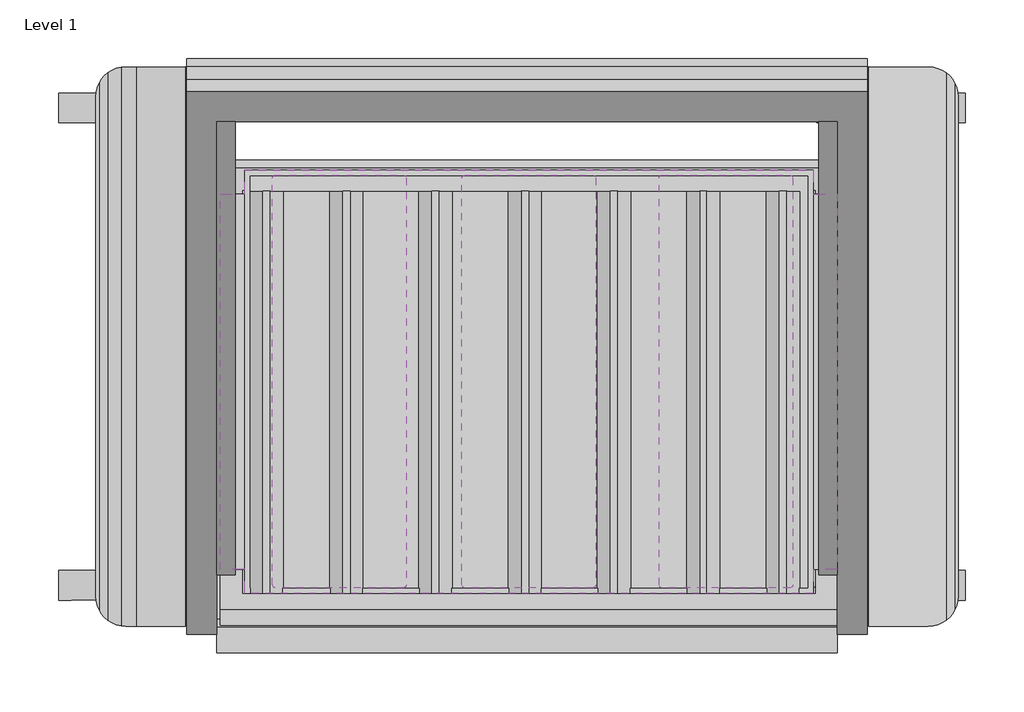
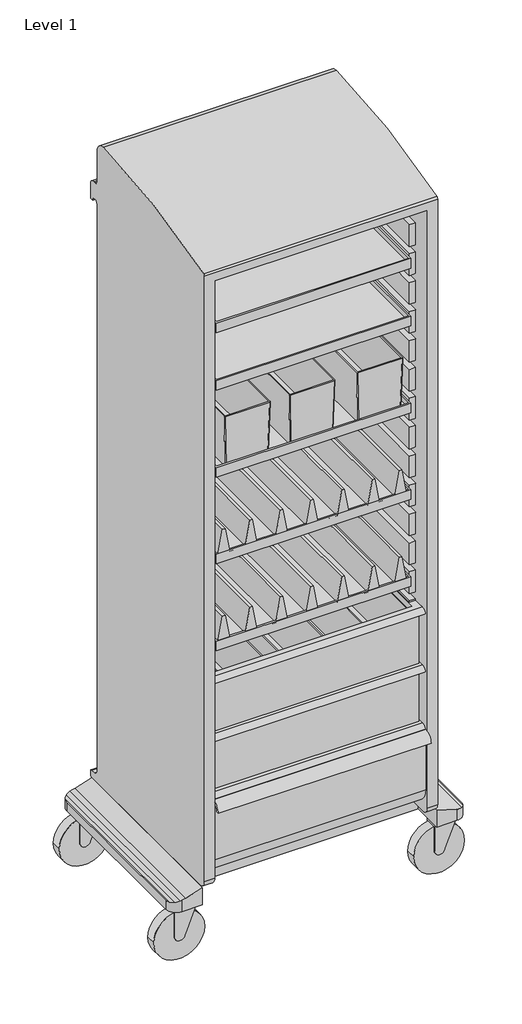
# One storey: 23 furniture elements.
"""IFC4 building model written with IfcOpenShell, lengths in millimetres."""

from ifc_helpers import new_model, si_unit, origin, place, context, project, spatial, transform, mapped, element, save
from components import furniture_57446897, furniture_afa4cdc3, furniture_f0e7dcaa, furniture_e1d5eda1, furniture_a066baf2, furniture_6ecb9068, furniture_46c0600c, furniture_ba50979e, furniture_a89a9833, furniture_da176630, b_6_e607353f, b_6_86f14c1b, b_6_80401fae

model = new_model("IFC4")

# Units and contexts
model_context = context("Model", 3, world=origin())
ifc_project = project(units=[si_unit("LENGTHUNIT", "METRE", prefix="MILLI")], contexts=[model_context])

# Site, building, storey
site = spatial("IfcSite", under=ifc_project)
building = spatial("IfcBuilding", under=site)
storey = spatial("IfcBuildingStorey", under=building, Name="Level 1", Elevation=0.0)

# Furniture
placement = place(None, origin())
furniture_shape = furniture_57446897(model_context)
element("IfcFurniture", 1, ObjectType="HermanMiller_CoStruc_CO561_LockerWithTambourDoor : 72\"H x 20\"D x 22\"W", at=placement, inside=storey, context=model_context, shape_type="MappedRepresentation", body=[
    mapped(furniture_shape, transform((369.7807996, -246.0625, 0.0), x_axis=(1.0, 0.0, 0.0), y_axis=(0.0, 1.0, 0.0), z_axis=(0.0, 0.0, 1.0))),
])
furniture_2_shape = furniture_afa4cdc3(model_context)
element("IfcFurniture", 2, ObjectType="HermanMiller_CoStruc_CO203_CTrayShelf : 14\"D x 20\"W", at=placement, inside=storey, context=model_context, shape_type="MappedRepresentation", body=[
    mapped(furniture_2_shape, transform((371.3682996, -276.225, 0.0), x_axis=(1.0, 0.0, 0.0), y_axis=(0.0, 1.0, 0.0), z_axis=(0.0, 0.0, 1.0))),
])
furniture_3_shape = furniture_f0e7dcaa(model_context)
element("IfcFurniture", 3, ObjectType="HermanMiller_CoStruc_CO203_CTrayShelf : 14\"D x 20\"W", at=placement, inside=storey, context=model_context, shape_type="MappedRepresentation", body=[
    mapped(furniture_3_shape, transform((371.3682996, -276.225, 0.0), x_axis=(1.0, 0.0, 0.0), y_axis=(0.0, 1.0, 0.0), z_axis=(0.0, 0.0, 1.0))),
])
furniture_4_shape = furniture_e1d5eda1(model_context)
element("IfcFurniture", 4, ObjectType="HermanMiller_CoStruc_CO203_CTrayShelf : 14\"D x 20\"W", at=placement, inside=storey, context=model_context, shape_type="MappedRepresentation", body=[
    mapped(furniture_4_shape, transform((371.3682996, -276.225, 0.0), x_axis=(1.0, 0.0, 0.0), y_axis=(0.0, 1.0, 0.0), z_axis=(0.0, 0.0, 1.0))),
])
furniture_5_shape = furniture_a066baf2(model_context)
element("IfcFurniture", 5, ObjectType="HermanMiller_CoStruc_CO203_CTrayShelf : 14\"D x 20\"W", at=placement, inside=storey, context=model_context, shape_type="MappedRepresentation", body=[
    mapped(furniture_5_shape, transform((371.3682996, -276.225, 0.0), x_axis=(1.0, 0.0, 0.0), y_axis=(0.0, 1.0, 0.0), z_axis=(0.0, 0.0, 1.0))),
])
furniture_6_shape = furniture_6ecb9068(model_context)
element("IfcFurniture", 6, ObjectType="HermanMiller_CoStruc_CO203_CTrayShelf : 14\"D x 20\"W", at=placement, inside=storey, context=model_context, shape_type="MappedRepresentation", body=[
    mapped(furniture_6_shape, transform((371.3682996, -276.225, 0.0), x_axis=(1.0, 0.0, 0.0), y_axis=(0.0, 1.0, 0.0), z_axis=(0.0, 0.0, 1.0))),
])
furniture_7_shape = furniture_46c0600c(model_context)
element("IfcFurniture", 7, ObjectType="HermanMiller_CoStruc_CO231_Subcontainer : 5 1/4\"H x 13 7/8\"D x 4 1/2\"W", at=placement, inside=storey, context=model_context, shape_type="MappedRepresentation", body=[
    mapped(furniture_7_shape, transform((209.55, -276.09038, -195.40728), x_axis=(1.0, 0.0, 0.0), y_axis=(0.0, 1.0, 0.0), z_axis=(0.0, 0.0, 1.0))),
])
element("IfcFurniture", 8, ObjectType="HermanMiller_CoStruc_CO231_Subcontainer : 5 1/4\"H x 13 7/8\"D x 4 1/2\"W", at=placement, inside=storey, context=model_context, shape_type="MappedRepresentation", body=[
    mapped(furniture_7_shape, transform((371.3682996, -276.09038, -195.40728), x_axis=(1.0, 0.0, 0.0), y_axis=(0.0, 1.0, 0.0), z_axis=(0.0, 0.0, 1.0))),
])
element("IfcFurniture", 9, ObjectType="HermanMiller_CoStruc_CO231_Subcontainer : 5 1/4\"H x 13 7/8\"D x 4 1/2\"W", at=placement, inside=storey, context=model_context, shape_type="MappedRepresentation", body=[
    mapped(furniture_7_shape, transform((539.75, -276.09038, -195.40728), x_axis=(1.0, 0.0, 0.0), y_axis=(0.0, 1.0, 0.0), z_axis=(0.0, 0.0, 1.0))),
])
furniture_8_shape = furniture_ba50979e(model_context)
element("IfcFurniture", 10, ObjectType="HermanMiller_CoStruc_CO231_Subcontainer : 5 1/4\"H x 13 7/8\"D x 4 1/2\"W", at=placement, inside=storey, context=model_context, shape_type="MappedRepresentation", body=[
    mapped(furniture_8_shape, transform((197.8608996, -276.09038, -5.715), x_axis=(1.0, 0.0, 0.0), y_axis=(0.0, 1.0, 0.0), z_axis=(0.0, 0.0, 1.0))),
])
element("IfcFurniture", 11, ObjectType="HermanMiller_CoStruc_CO231_Subcontainer : 5 1/4\"H x 13 7/8\"D x 4 1/2\"W", at=placement, inside=storey, context=model_context, shape_type="MappedRepresentation", body=[
    mapped(furniture_8_shape, transform((355.6, -276.09038, -5.715), x_axis=(1.0, 0.0, 0.0), y_axis=(0.0, 1.0, 0.0), z_axis=(0.0, 0.0, 1.0))),
])
element("IfcFurniture", 12, ObjectType="HermanMiller_CoStruc_CO231_Subcontainer : 5 1/4\"H x 13 7/8\"D x 4 1/2\"W", at=placement, inside=storey, context=model_context, shape_type="MappedRepresentation", body=[
    mapped(furniture_8_shape, transform((546.1, -276.09038, -5.715), x_axis=(1.0, 0.0, 0.0), y_axis=(0.0, 1.0, 0.0), z_axis=(0.0, 0.0, 1.0))),
])
element("IfcFurniture", 13, ObjectType="HermanMiller_CoStruc_CO231_Subcontainer : 5 1/4\"H x 13 7/8\"D x 4 1/2\"W", at=placement, inside=storey, context=model_context, shape_type="MappedRepresentation", body=[
    mapped(furniture_8_shape, transform((197.8608996, -276.09038, 146.685), x_axis=(1.0, 0.0, 0.0), y_axis=(0.0, 1.0, 0.0), z_axis=(0.0, 0.0, 1.0))),
])
element("IfcFurniture", 14, ObjectType="HermanMiller_CoStruc_CO231_Subcontainer : 5 1/4\"H x 13 7/8\"D x 4 1/2\"W", at=placement, inside=storey, context=model_context, shape_type="MappedRepresentation", body=[
    mapped(furniture_8_shape, transform((349.25, -276.09038, 146.685), x_axis=(1.0, 0.0, 0.0), y_axis=(0.0, 1.0, 0.0), z_axis=(0.0, 0.0, 1.0))),
])
element("IfcFurniture", 15, ObjectType="HermanMiller_CoStruc_CO231_Subcontainer : 5 1/4\"H x 13 7/8\"D x 4 1/2\"W", at=placement, inside=storey, context=model_context, shape_type="MappedRepresentation", body=[
    mapped(furniture_8_shape, transform((558.8, -276.09038, 146.685), x_axis=(1.0, 0.0, 0.0), y_axis=(0.0, 1.0, 0.0), z_axis=(0.0, 0.0, 1.0))),
])
element("IfcFurniture", 16, ObjectType="HermanMiller_CoStruc_CO231_Subcontainer : 5 1/4\"H x 13 7/8\"D x 4 1/2\"W", at=placement, inside=storey, context=model_context, shape_type="MappedRepresentation", body=[
    mapped(furniture_8_shape, transform((349.25, -276.09038, -158.115), x_axis=(1.0, 0.0, 0.0), y_axis=(0.0, 1.0, 0.0), z_axis=(0.0, 0.0, 1.0))),
])
element("IfcFurniture", 17, ObjectType="HermanMiller_CoStruc_CO231_Subcontainer : 5 1/4\"H x 13 7/8\"D x 4 1/2\"W", at=placement, inside=storey, context=model_context, shape_type="MappedRepresentation", body=[
    mapped(furniture_8_shape, transform((488.95, -276.09038, -158.115), x_axis=(1.0, 0.0, 0.0), y_axis=(0.0, 1.0, 0.0), z_axis=(0.0, 0.0, 1.0))),
])
element("IfcFurniture", 18, ObjectType="HermanMiller_CoStruc_CO231_Subcontainer : 5 1/4\"H x 13 7/8\"D x 4 1/2\"W", at=placement, inside=storey, context=model_context, shape_type="MappedRepresentation", body=[
    mapped(furniture_8_shape, transform((203.2, -276.09038, -158.115), x_axis=(1.0, 0.0, 0.0), y_axis=(0.0, 1.0, 0.0), z_axis=(0.0, 0.0, 1.0))),
])
furniture_9_shape = furniture_a89a9833(model_context)
element("IfcFurniture", 19, ObjectType="HermanMiller_CoStruc_CO242_Subdivider Vane : 2 5/8\"Hx13 3/4\"D x 18 1/2\"W", at=placement, inside=storey, context=model_context, shape_type="MappedRepresentation", body=[
    mapped(furniture_9_shape, transform((367.8973512, -285.369, 0.0), x_axis=(1.0, 0.0, 0.0), y_axis=(0.0, 1.0, 0.0), z_axis=(0.0, 0.0, 1.0))),
])
furniture_10_shape = furniture_da176630(model_context)
element("IfcFurniture", 20, ObjectType="HermanMiller_CoStruc_CO242_Subdivider Vane : 2 5/8\"Hx13 3/4\"D x 18 1/2\"W", at=placement, inside=storey, context=model_context, shape_type="MappedRepresentation", body=[
    mapped(furniture_10_shape, transform((367.8973512, -285.369, 0.0), x_axis=(1.0, 0.0, 0.0), y_axis=(0.0, 1.0, 0.0), z_axis=(0.0, 0.0, 1.0))),
])
b_6_shape = b_6_e607353f(model_context)
element("IfcFurniture", 21, ObjectType="HermanMiller_CoStruc_CO207_Drawer : B - 6", at=placement, inside=storey, context=model_context, shape_type="MappedRepresentation", body=[
    mapped(b_6_shape, transform((371.3009512, -288.925, 0.0), x_axis=(1.0, 0.0, 0.0), y_axis=(0.0, 1.0, 0.0), z_axis=(0.0, 0.0, 1.0))),
])
b_6_2_shape = b_6_86f14c1b(model_context)
element("IfcFurniture", 22, ObjectType="HermanMiller_CoStruc_CO207_Drawer : B - 6", at=placement, inside=storey, context=model_context, shape_type="MappedRepresentation", body=[
    mapped(b_6_2_shape, transform((371.3009512, -288.925, 0.0), x_axis=(1.0, 0.0, 0.0), y_axis=(0.0, 1.0, 0.0), z_axis=(0.0, 0.0, 1.0))),
])
b_6_3_shape = b_6_80401fae(model_context)
element("IfcFurniture", 23, ObjectType="HermanMiller_CoStruc_CO207_Drawer : B - 6", at=placement, inside=storey, context=model_context, shape_type="MappedRepresentation", body=[
    mapped(b_6_3_shape, transform((371.3009512, -288.925, 0.0), x_axis=(1.0, 0.0, 0.0), y_axis=(0.0, 1.0, 0.0), z_axis=(0.0, 0.0, 1.0))),
])

save(model, "model.ifc")
